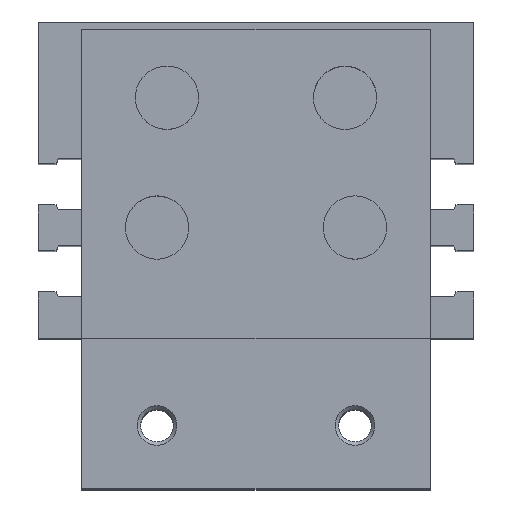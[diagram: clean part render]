
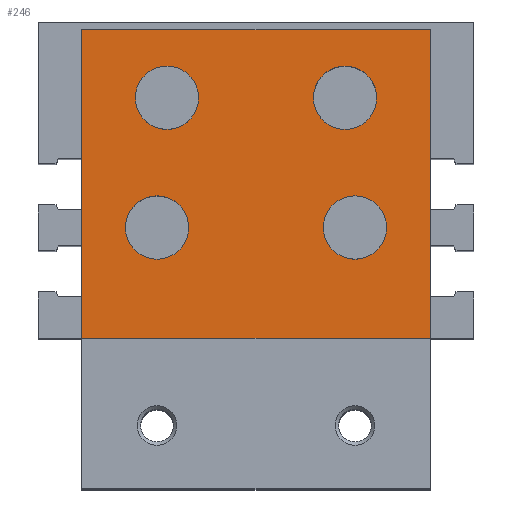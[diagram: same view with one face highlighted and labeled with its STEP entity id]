
A CAD part, top view. The second image highlights one B-rep face of the part: STEP entity #246.
In plain terms, the highlighted planar face has unit normal (0, 0, 1).
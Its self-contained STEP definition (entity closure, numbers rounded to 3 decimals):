
#246 = ADVANCED_FACE( '', ( #553, #554, #555, #556, #557 ), #558, .F. );
#553 = FACE_BOUND( '', #979, .T. );
#554 = FACE_BOUND( '', #980, .T. );
#555 = FACE_OUTER_BOUND( '', #981, .T. );
#556 = FACE_BOUND( '', #982, .T. );
#557 = FACE_BOUND( '', #983, .T. );
#558 = PLANE( '', #984 );
#979 = EDGE_LOOP( '', ( #1514 ) );
#980 = EDGE_LOOP( '', ( #1515 ) );
#981 = EDGE_LOOP( '', ( #1516, #1517, #1518, #1519 ) );
#982 = EDGE_LOOP( '', ( #1520 ) );
#983 = EDGE_LOOP( '', ( #1521 ) );
#984 = AXIS2_PLACEMENT_3D( '', #1522, #1523, #1524 );
#1514 = ORIENTED_EDGE( '', *, *, #2320, .F. );
#1515 = ORIENTED_EDGE( '', *, *, #2238, .F. );
#1516 = ORIENTED_EDGE( '', *, *, #2201, .T. );
#1517 = ORIENTED_EDGE( '', *, *, #2236, .F. );
#1518 = ORIENTED_EDGE( '', *, *, #2290, .F. );
#1519 = ORIENTED_EDGE( '', *, *, #2247, .T. );
#1520 = ORIENTED_EDGE( '', *, *, #2240, .F. );
#1521 = ORIENTED_EDGE( '', *, *, #2321, .F. );
#1522 = CARTESIAN_POINT( '', ( 44., 39., 0. ) );
#1523 = DIRECTION( '', ( 0., 0., -1. ) );
#1524 = DIRECTION( '', ( -1., 0., 0. ) );
#2201 = EDGE_CURVE( '', #2544, #2552, #2554, .T. );
#2236 = EDGE_CURVE( '', #2609, #2552, #2611, .T. );
#2238 = EDGE_CURVE( '', #2613, #2613, #2614, .T. );
#2240 = EDGE_CURVE( '', #2616, #2616, #2617, .T. );
#2247 = EDGE_CURVE( '', #2628, #2544, #2629, .T. );
#2290 = EDGE_CURVE( '', #2628, #2609, #2700, .T. );
#2320 = EDGE_CURVE( '', #2749, #2749, #2750, .F. );
#2321 = EDGE_CURVE( '', #2751, #2751, #2752, .F. );
#2544 = VERTEX_POINT( '', #3055 );
#2552 = VERTEX_POINT( '', #3067 );
#2554 = LINE( '', #3070, #3071 );
#2609 = VERTEX_POINT( '', #3140 );
#2611 = LINE( '', #3143, #3144 );
#2613 = VERTEX_POINT( '', #3146 );
#2614 = CIRCLE( '', #3147, 4. );
#2616 = VERTEX_POINT( '', #3149 );
#2617 = CIRCLE( '', #3150, 4. );
#2628 = VERTEX_POINT( '', #3165 );
#2629 = LINE( '', #3166, #3167 );
#2700 = LINE( '', #3259, #3260 );
#2749 = VERTEX_POINT( '', #3324 );
#2750 = CIRCLE( '', #3325, 4. );
#2751 = VERTEX_POINT( '', #3326 );
#2752 = CIRCLE( '', #3327, 4. );
#3055 = CARTESIAN_POINT( '', ( 0., 39., 0. ) );
#3067 = CARTESIAN_POINT( '', ( 0., 0., 0. ) );
#3070 = CARTESIAN_POINT( '', ( 0., 39., 0. ) );
#3071 = VECTOR( '', #3725, 1000. );
#3140 = CARTESIAN_POINT( '', ( 44., 0., 0. ) );
#3143 = CARTESIAN_POINT( '', ( 44., 0., 0. ) );
#3144 = VECTOR( '', #3771, 1000. );
#3146 = CARTESIAN_POINT( '', ( 13.5, 14., 0. ) );
#3147 = AXIS2_PLACEMENT_3D( '', #3772, #3773, #3774 );
#3149 = CARTESIAN_POINT( '', ( 37.25, 30.4, 0. ) );
#3150 = AXIS2_PLACEMENT_3D( '', #3775, #3776, #3777 );
#3165 = CARTESIAN_POINT( '', ( 44., 39., 0. ) );
#3166 = CARTESIAN_POINT( '', ( 44., 39., 0. ) );
#3167 = VECTOR( '', #3782, 1000. );
#3259 = CARTESIAN_POINT( '', ( 44., 39., 0. ) );
#3260 = VECTOR( '', #3834, 1000. );
#3324 = CARTESIAN_POINT( '', ( 30.5, 14., 0. ) );
#3325 = AXIS2_PLACEMENT_3D( '', #3868, #3869, #3870 );
#3326 = CARTESIAN_POINT( '', ( 6.75, 30.4, 0. ) );
#3327 = AXIS2_PLACEMENT_3D( '', #3871, #3872, #3873 );
#3725 = DIRECTION( '', ( 0., -1., 0. ) );
#3771 = DIRECTION( '', ( -1., 0., 0. ) );
#3772 = CARTESIAN_POINT( '', ( 9.5, 14., 0. ) );
#3773 = DIRECTION( '', ( 0., 0., 1. ) );
#3774 = DIRECTION( '', ( 1., 0., 0. ) );
#3775 = CARTESIAN_POINT( '', ( 33.25, 30.4, 0. ) );
#3776 = DIRECTION( '', ( 0., 0., 1. ) );
#3777 = DIRECTION( '', ( 1., 0., 0. ) );
#3782 = DIRECTION( '', ( -1., 0., 0. ) );
#3834 = DIRECTION( '', ( 0., -1., 0. ) );
#3868 = CARTESIAN_POINT( '', ( 34.5, 14., 0. ) );
#3869 = DIRECTION( '', ( 0., 0., -1. ) );
#3870 = DIRECTION( '', ( -1., 0., 0. ) );
#3871 = CARTESIAN_POINT( '', ( 10.75, 30.4, 0. ) );
#3872 = DIRECTION( '', ( 0., 0., -1. ) );
#3873 = DIRECTION( '', ( -1., 0., 0. ) );
